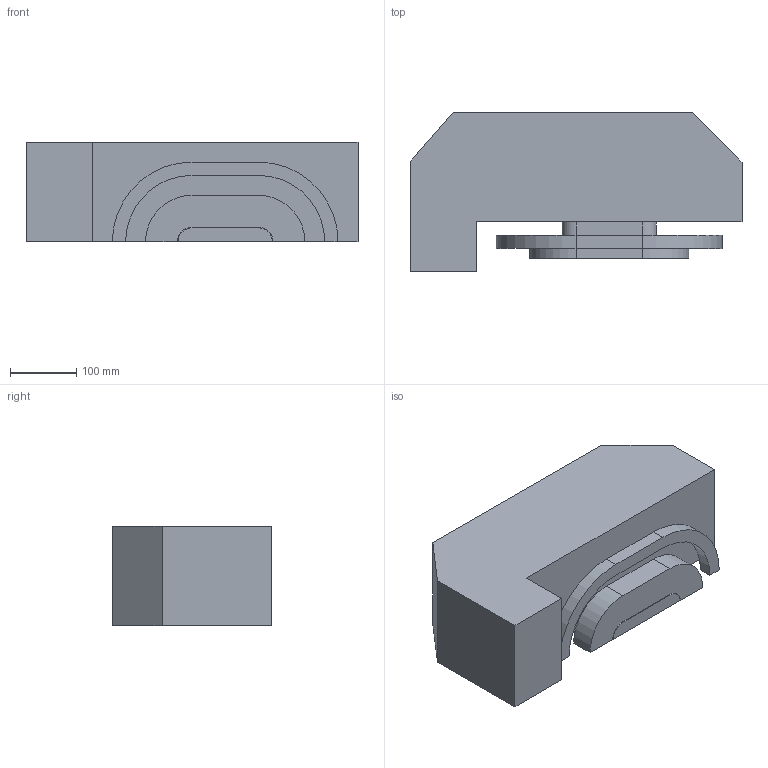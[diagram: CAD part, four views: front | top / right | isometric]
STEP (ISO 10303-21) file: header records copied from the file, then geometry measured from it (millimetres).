
FILE_DESCRIPTION(('STEP AP214'),'1');
FILE_NAME('Superbend_BC_model3_step.step','2021-06-18T18:34:14',(' '),(' '),'Spatial InterOp 3D',' ',' ');
FILE_SCHEMA(('AUTOMOTIVE_DESIGN { 1 0 10303 214 1 1 1 1 }'));
Length unit declared in the file: millimetre
Products named in the file (1): Pole
Bounding box: 500 x 240 x 150 mm (x, y, z)
Volume: 13455112 mm3; surface area: 481716.2 mm2
Topology: 4 solids, 4 shells, 36 faces, 84 edges, 56 vertices
Faces by surface type: plane 26, cylinder 10
Entity records: 1055 total; most frequent: DIRECTION 184, CARTESIAN_POINT 180, ORIENTED_EDGE 168, EDGE_CURVE 84, LINE 64, VECTOR 64, AXIS2_PLACEMENT_3D 60, VERTEX_POINT 56
